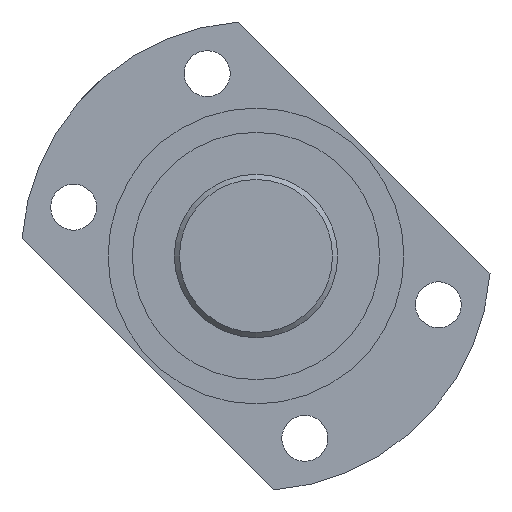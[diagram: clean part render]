
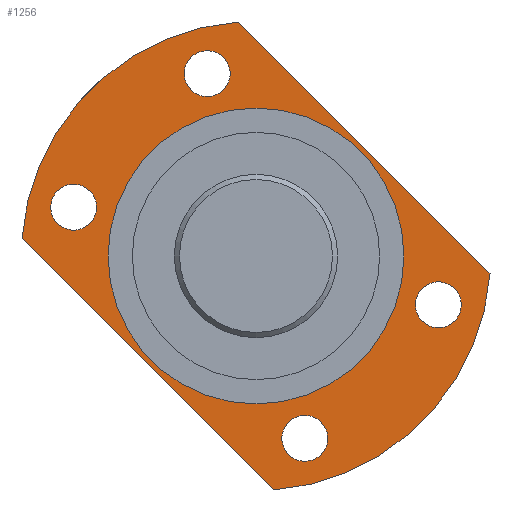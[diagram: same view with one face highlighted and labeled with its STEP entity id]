
A CAD part, left-side view. The second image highlights one B-rep face of the part: STEP entity #1256.
In plain terms, the highlighted planar face has unit normal (-1, 0, 0).
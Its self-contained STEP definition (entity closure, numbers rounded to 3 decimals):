
#32 = ORIENTED_EDGE ( 'NONE', *, *, #965, .T. ) ;
#69 = EDGE_CURVE ( 'NONE', #558, #354, #749, .T. ) ;
#74 = DIRECTION ( 'NONE',  ( 1., 0., 0. ) ) ;
#89 = EDGE_CURVE ( 'NONE', #134, #134, #1210, .T. ) ;
#92 = DIRECTION ( 'NONE',  ( -1., 0., 0. ) ) ;
#100 = AXIS2_PLACEMENT_3D ( 'NONE', #1079, #74, #689 ) ;
#112 = LINE ( 'NONE', #518, #305 ) ;
#124 = EDGE_CURVE ( 'NONE', #838, #838, #1147, .T. ) ;
#128 = DIRECTION ( 'NONE',  ( 0., 0.707, 0.707 ) ) ;
#130 = CARTESIAN_POINT ( 'NONE',  ( 88.392, 88.674, 3.444 ) ) ;
#132 = CIRCLE ( 'NONE', #887, 4.5 ) ;
#134 = VERTEX_POINT ( 'NONE', #310 ) ;
#223 = DIRECTION ( 'NONE',  ( 0., 0.707, 0.707 ) ) ;
#235 = VERTEX_POINT ( 'NONE', #943 ) ;
#236 = ORIENTED_EDGE ( 'NONE', *, *, #1000, .T. ) ;
#241 = VERTEX_POINT ( 'NONE', #1284 ) ;
#249 = EDGE_LOOP ( 'NONE', ( #32 ) ) ;
#273 = ORIENTED_EDGE ( 'NONE', *, *, #69, .T. ) ;
#305 = VECTOR ( 'NONE', #931, 1000. ) ;
#310 = CARTESIAN_POINT ( 'NONE',  ( 88.392, 42.803, 29. ) ) ;
#354 = VERTEX_POINT ( 'NONE', #474 ) ;
#384 = FACE_BOUND ( 'NONE', #551, .T. ) ;
#415 = VERTEX_POINT ( 'NONE', #833 ) ;
#424 = CIRCLE ( 'NONE', #532, 46. ) ;
#456 = EDGE_CURVE ( 'NONE', #235, #235, #509, .T. ) ;
#474 = CARTESIAN_POINT ( 'NONE',  ( 88.392, 39.358, -45.871 ) ) ;
#485 = EDGE_CURVE ( 'NONE', #415, #415, #1022, .T. ) ;
#508 = DIRECTION ( 'NONE',  ( -1., 0., 0. ) ) ;
#509 = CIRCLE ( 'NONE', #100, 4.5 ) ;
#518 = CARTESIAN_POINT ( 'NONE',  ( 88.392, 41.919, 41.543 ) ) ;
#532 = AXIS2_PLACEMENT_3D ( 'NONE', #828, #851, #223 ) ;
#551 = EDGE_LOOP ( 'NONE', ( #1310 ) ) ;
#554 = ORIENTED_EDGE ( 'NONE', *, *, #714, .T. ) ;
#558 = VERTEX_POINT ( 'NONE', #130 ) ;
#589 = DIRECTION ( 'NONE',  ( 0., 0., 1. ) ) ;
#595 = FACE_BOUND ( 'NONE', #249, .T. ) ;
#620 = AXIS2_PLACEMENT_3D ( 'NONE', #973, #508, #920 ) ;
#622 = DIRECTION ( 'NONE',  ( 1., 0., 0. ) ) ;
#639 = VECTOR ( 'NONE', #928, 1000. ) ;
#689 = DIRECTION ( 'NONE',  ( 0., 0.707, 0.707 ) ) ;
#692 = FACE_BOUND ( 'NONE', #866, .T. ) ;
#713 = FACE_BOUND ( 'NONE', #1060, .T. ) ;
#714 = EDGE_CURVE ( 'NONE', #354, #954, #1006, .T. ) ;
#725 = CARTESIAN_POINT ( 'NONE',  ( 88.392, 55.561, 38.921 ) ) ;
#732 = CARTESIAN_POINT ( 'NONE',  ( 88.392, -3.068, -3.444 ) ) ;
#742 = DIRECTION ( 'NONE',  ( 1., 0., 0. ) ) ;
#749 = LINE ( 'NONE', #832, #639 ) ;
#769 = AXIS2_PLACEMENT_3D ( 'NONE', #935, #622, #1015 ) ;
#793 = ORIENTED_EDGE ( 'NONE', *, *, #883, .T. ) ;
#795 = DIRECTION ( 'NONE',  ( 1., 0., 0. ) ) ;
#828 = CARTESIAN_POINT ( 'NONE',  ( 88.392, 42.803, 0. ) ) ;
#832 = CARTESIAN_POINT ( 'NONE',  ( 88.392, 84.345, -0.884 ) ) ;
#833 = CARTESIAN_POINT ( 'NONE',  ( 88.392, 10.245, -6.394 ) ) ;
#837 = CARTESIAN_POINT ( 'NONE',  ( 88.392, 52.379, 35.739 ) ) ;
#838 = VERTEX_POINT ( 'NONE', #725 ) ;
#851 = DIRECTION ( 'NONE',  ( -1., 0., 0. ) ) ;
#852 = AXIS2_PLACEMENT_3D ( 'NONE', #1290, #795, #899 ) ;
#866 = EDGE_LOOP ( 'NONE', ( #1279 ) ) ;
#871 = AXIS2_PLACEMENT_3D ( 'NONE', #1098, #92, #589 ) ;
#883 = EDGE_CURVE ( 'NONE', #1125, #558, #424, .T. ) ;
#887 = AXIS2_PLACEMENT_3D ( 'NONE', #950, #1247, #128 ) ;
#899 = DIRECTION ( 'NONE',  ( 0., 0.707, 0.707 ) ) ;
#903 = FACE_OUTER_BOUND ( 'NONE', #964, .T. ) ;
#920 = DIRECTION ( 'NONE',  ( 0., 0.707, 0.707 ) ) ;
#928 = DIRECTION ( 'NONE',  ( 0., -0.707, -0.707 ) ) ;
#931 = DIRECTION ( 'NONE',  ( 0., 0.707, 0.707 ) ) ;
#935 = CARTESIAN_POINT ( 'NONE',  ( 88.392, 42.803, 0. ) ) ;
#943 = CARTESIAN_POINT ( 'NONE',  ( 88.392, 36.408, -32.557 ) ) ;
#950 = CARTESIAN_POINT ( 'NONE',  ( 88.392, 78.542, 9.576 ) ) ;
#954 = VERTEX_POINT ( 'NONE', #732 ) ;
#964 = EDGE_LOOP ( 'NONE', ( #273, #554, #236, #793 ) ) ;
#965 = EDGE_CURVE ( 'NONE', #241, #241, #132, .T. ) ;
#966 = CARTESIAN_POINT ( 'NONE',  ( 88.392, 46.247, 45.871 ) ) ;
#973 = CARTESIAN_POINT ( 'NONE',  ( 88.392, 42.803, 0. ) ) ;
#989 = EDGE_LOOP ( 'NONE', ( #1270 ) ) ;
#1000 = EDGE_CURVE ( 'NONE', #954, #1125, #112, .T. ) ;
#1006 = CIRCLE ( 'NONE', #620, 46. ) ;
#1010 = FACE_BOUND ( 'NONE', #989, .T. ) ;
#1015 = DIRECTION ( 'NONE',  ( 0., 0., 1. ) ) ;
#1022 = CIRCLE ( 'NONE', #852, 4.5 ) ;
#1060 = EDGE_LOOP ( 'NONE', ( #1194 ) ) ;
#1079 = CARTESIAN_POINT ( 'NONE',  ( 88.392, 33.226, -35.739 ) ) ;
#1098 = CARTESIAN_POINT ( 'NONE',  ( 88.392, 63.132, 20.329 ) ) ;
#1125 = VERTEX_POINT ( 'NONE', #966 ) ;
#1142 = DIRECTION ( 'NONE',  ( 0., 0.707, 0.707 ) ) ;
#1147 = CIRCLE ( 'NONE', #1318, 4.5 ) ;
#1194 = ORIENTED_EDGE ( 'NONE', *, *, #456, .T. ) ;
#1210 = CIRCLE ( 'NONE', #769, 29. ) ;
#1247 = DIRECTION ( 'NONE',  ( 1., 0., 0. ) ) ;
#1256 = ADVANCED_FACE ( 'NONE', ( #595, #692, #1010, #903, #713, #384 ), #1306, .T. ) ;
#1270 = ORIENTED_EDGE ( 'NONE', *, *, #485, .T. ) ;
#1279 = ORIENTED_EDGE ( 'NONE', *, *, #124, .T. ) ;
#1284 = CARTESIAN_POINT ( 'NONE',  ( 88.392, 81.724, 12.758 ) ) ;
#1290 = CARTESIAN_POINT ( 'NONE',  ( 88.392, 7.063, -9.576 ) ) ;
#1306 = PLANE ( 'NONE',  #871 ) ;
#1310 = ORIENTED_EDGE ( 'NONE', *, *, #89, .T. ) ;
#1318 = AXIS2_PLACEMENT_3D ( 'NONE', #837, #742, #1142 ) ;
